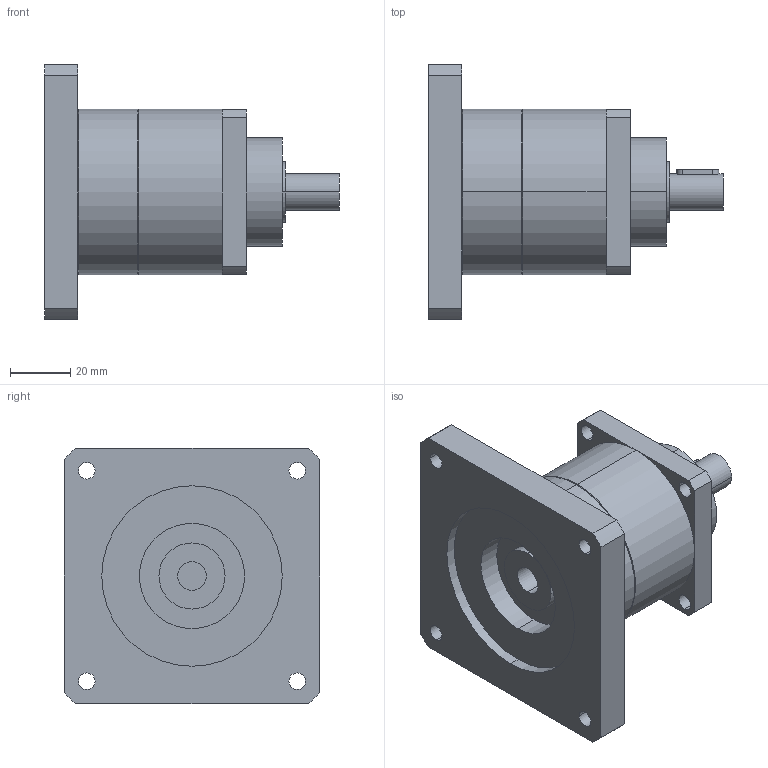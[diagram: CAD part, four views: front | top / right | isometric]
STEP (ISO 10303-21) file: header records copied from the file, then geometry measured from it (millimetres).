
FILE_DESCRIPTION(('CoCreate Modeling STEP Export'),'2;1');
FILE_NAME('GPT55_ig-3-4-5-7-10_12_B5A_9.52_P33.stp','2014-08-25T14:35:20',(''),(''),'CoCreate Modeling STEP processor for AP214 (Solid Model)','CoCreate Modeling 16.00C 25-Feb-2009 (C) Parametric Technology GmbH','');
FILE_SCHEMA(('AUTOMOTIVE_DESIGN { 1 0 10303 214 1 1 1 1 }'));
Length unit declared in the file: millimetre
Products named in the file (2): GPT55_ig-3-4-5-7-10_12_B5A_9.52_P33
Assembly tree (1 placements, depth 2):
  GPT55_ig-3-4-5-7-10_12_B5A_9.52_P33
    GPT55_ig-3-4-5-7-10_12_B5A_9.52_P33
Bounding box: 98 x 85 x 85 mm (x, y, z)
Volume: 212388.8 mm3; surface area: 35048.5 mm2
Topology: 1 solids, 1 shells, 77 faces, 204 edges, 139 vertices
Faces by surface type: cylinder 46, plane 27, cone 4
Entity records: 2515 total; most frequent: CARTESIAN_POINT 710, ORIENTED_EDGE 408, DIRECTION 318, EDGE_CURVE 204, VERTEX_POINT 139, AXIS2_PLACEMENT_3D 117, EDGE_LOOP 103, VECTOR 84
